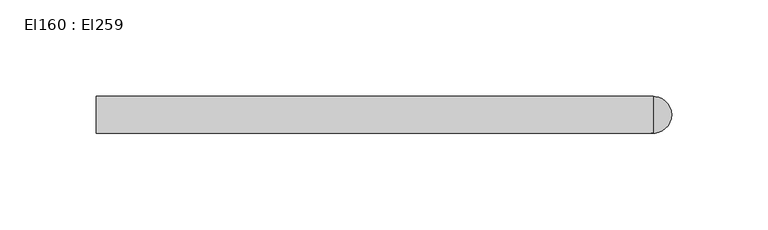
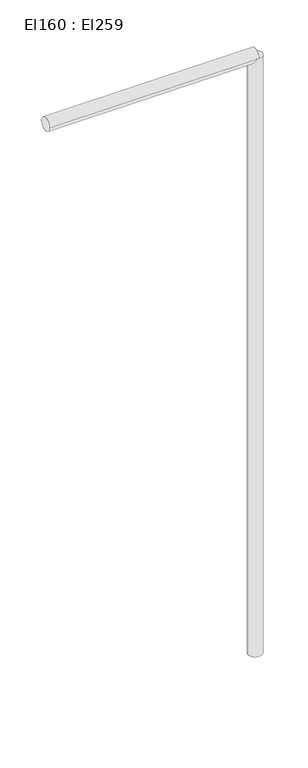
"""IFC4 building model written with IfcOpenShell, lengths in millimetres: cable carrier segment geometry, El160 : El259."""

from ifc_helpers import new_model, si_unit, point, frame, frame_2d, origin, place, context, project, spatial, circle_curve, trimmed, segment, composite_curve, outline, extrude, source, transform, mapped, element, save


def el160_el259_031f7956(model_context):
    return source(origin(), model_context, "Body", "SweptSolid", [
        extrude(outline(composite_curve([segment(trimmed(circle_curve(frame_2d((8944.2126511, 17716.0121745)), 9.5), [point((8934.7126511, 17716.0121745))], [point((8953.7126511, 17716.0121745))], False, "CARTESIAN"), True, "CONTINUOUS"), segment(trimmed(circle_curve(frame_2d((8944.2126511, 17716.0121745)), 9.5), [point((8953.7126511, 17716.0121745))], [point((8934.7126511, 17716.0121745))], False, "CARTESIAN"), True, "CONTINUOUS")], self_intersect=False)), frame((0.0, 0.0, 1830.0), z_axis=(0.0, 0.0, 1.0), x_axis=(1.0, 0.0, 0.0)), (0.0, 0.0, 1.0), 870.0),
        extrude(outline(composite_curve([segment(trimmed(circle_curve(frame_2d((17716.0121745, 2700.0)), 9.5), [point((17706.5121745, 2700.0))], [point((17725.5121745, 2700.0))], False, "CARTESIAN"), True, "CONTINUOUS"), segment(trimmed(circle_curve(frame_2d((17716.0121745, 2700.0)), 9.5), [point((17725.5121745, 2700.0))], [point((17706.5121745, 2700.0))], False, "CARTESIAN"), True, "CONTINUOUS")], self_intersect=False)), frame((8655.6566511, 0.0, 0.0), z_axis=(1.0, 0.0, 0.0), x_axis=(0.0, 1.0, 0.0)), (0.0, 0.0, 1.0), 288.556),
    ])


if __name__ == "__main__":
    model = new_model("IFC4")
    model_context = context("Model", 3, world=origin())
    ifc_project = project(units=[si_unit("LENGTHUNIT", "METRE", prefix="MILLI")], contexts=[model_context])
    site = spatial("IfcSite", under=ifc_project)
    building = spatial("IfcBuilding", under=site)
    placement = place(None, origin())
    el160_el259_shape = el160_el259_031f7956(model_context)
    element("IfcCableCarrierSegment", 1, ObjectType="El160 : El259", at=placement, inside=building, context=model_context, shape_type="MappedRepresentation", body=[
        mapped(el160_el259_shape, transform((0.0, 0.0, 0.0), x_axis=(1.0, 0.0, 0.0), y_axis=(0.0, 1.0, 0.0), z_axis=(0.0, 0.0, 1.0))),
    ])
    save(model, "model.ifc")
